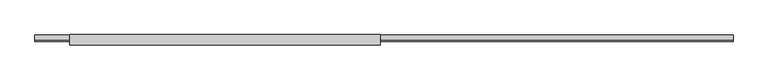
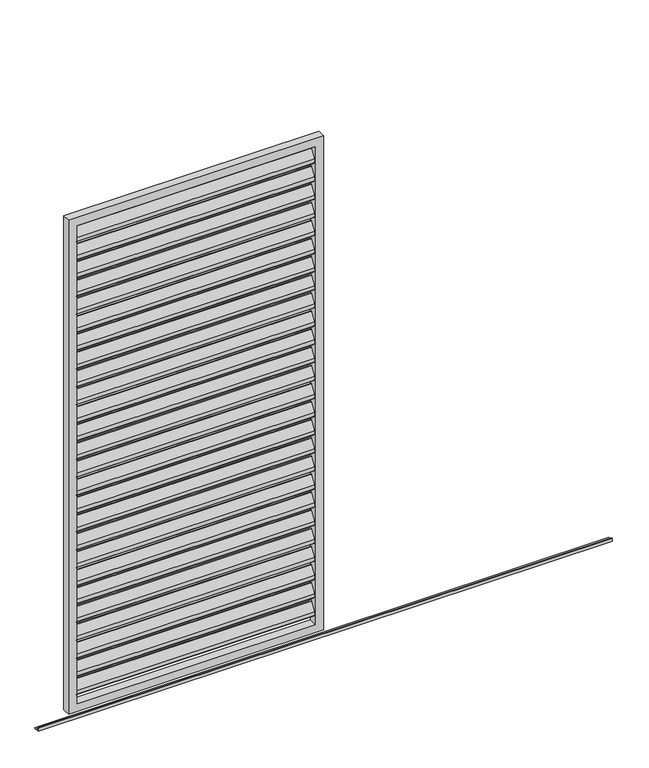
"""IFC4 building model written with IfcOpenShell, lengths in millimetres: proxy geometry, Renson_Amani_Loggia_Paro_Aluminium_Sliding : Renson_Amani_Loggia_Paro_Aluminium_Sliding."""

from ifc_helpers import new_model, si_unit, point, frame, frame_2d, origin, place, context, project, spatial, polyline, circle_curve, trimmed, segment, composite_curve, outline, extrude, source, transform, mapped, element, save


def generic_models_cdf295df(model_context):
    return source(origin(), model_context, "Body", "SweptSolid", [
        extrude(outline(composite_curve([segment(trimmed(circle_curve(frame_2d((12.6675921, 2432.6587719)), 3.0), [point((10.1515804, 2434.292689))], [point((15.6675921, 2432.6587719))], False, "CARTESIAN"), True, "CONTINUOUS"), segment(polyline([(15.6675921, 2432.6587719), (15.6675921, 2414.2979873)]), True, "CONTINUOUS"), segment(trimmed(circle_curve(frame_2d((12.6675921, 2414.2979873)), 3.0), [point((15.6675921, 2414.2979873))], [point((15.1836038, 2412.6640702))], False, "CARTESIAN"), True, "CONTINUOUS"), segment(polyline([(15.1836038, 2412.6640702), (-8.8163962, 2375.707311)]), True, "CONTINUOUS"), segment(trimmed(circle_curve(frame_2d((-11.3324079, 2377.3412281)), 3.0), [point((-8.8163962, 2375.707311))], [point((-14.3324079, 2377.3412281))], False, "CARTESIAN"), True, "CONTINUOUS"), segment(polyline([(-14.3324079, 2377.3412281), (-14.3324079, 2396.5906532), (10.1515804, 2434.292689)]), True, "CONTINUOUS")], self_intersect=False)), frame((-560.0, 0.0, 0.0), z_axis=(1.0, 0.0, 0.0), x_axis=(0.0, 1.0, 0.0)), (0.0, 0.0, 1.0), 1120.0),
        extrude(outline(composite_curve([segment(trimmed(circle_curve(frame_2d((12.6675921, 2342.6587719)), 3.0), [point((10.1515804, 2344.292689))], [point((15.6675921, 2342.6587719))], False, "CARTESIAN"), True, "CONTINUOUS"), segment(polyline([(15.6675921, 2342.6587719), (15.6675921, 2324.2979873)]), True, "CONTINUOUS"), segment(trimmed(circle_curve(frame_2d((12.6675921, 2324.2979873)), 3.0), [point((15.6675921, 2324.2979873))], [point((15.1836038, 2322.6640702))], False, "CARTESIAN"), True, "CONTINUOUS"), segment(polyline([(15.1836038, 2322.6640702), (-8.8163962, 2285.707311)]), True, "CONTINUOUS"), segment(trimmed(circle_curve(frame_2d((-11.3324079, 2287.3412281)), 3.0), [point((-8.8163962, 2285.707311))], [point((-14.3324079, 2287.3412281))], False, "CARTESIAN"), True, "CONTINUOUS"), segment(polyline([(-14.3324079, 2287.3412281), (-14.3324079, 2306.5906532), (10.1515804, 2344.292689)]), True, "CONTINUOUS")], self_intersect=False)), frame((-560.0, 0.0, 0.0), z_axis=(1.0, 0.0, 0.0), x_axis=(0.0, 1.0, 0.0)), (0.0, 0.0, 1.0), 1120.0),
        extrude(outline(composite_curve([segment(trimmed(circle_curve(frame_2d((12.6675921, 2252.6587719)), 3.0), [point((10.1515804, 2254.292689))], [point((15.6675921, 2252.6587719))], False, "CARTESIAN"), True, "CONTINUOUS"), segment(polyline([(15.6675921, 2252.6587719), (15.6675921, 2234.2979873)]), True, "CONTINUOUS"), segment(trimmed(circle_curve(frame_2d((12.6675921, 2234.2979873)), 3.0), [point((15.6675921, 2234.2979873))], [point((15.1836038, 2232.6640702))], False, "CARTESIAN"), True, "CONTINUOUS"), segment(polyline([(15.1836038, 2232.6640702), (-8.8163962, 2195.707311)]), True, "CONTINUOUS"), segment(trimmed(circle_curve(frame_2d((-11.3324079, 2197.3412281)), 3.0), [point((-8.8163962, 2195.707311))], [point((-14.3324079, 2197.3412281))], False, "CARTESIAN"), True, "CONTINUOUS"), segment(polyline([(-14.3324079, 2197.3412281), (-14.3324079, 2216.5906532), (10.1515804, 2254.292689)]), True, "CONTINUOUS")], self_intersect=False)), frame((-560.0, 0.0, 0.0), z_axis=(1.0, 0.0, 0.0), x_axis=(0.0, 1.0, 0.0)), (0.0, 0.0, 1.0), 1120.0),
        extrude(outline(composite_curve([segment(trimmed(circle_curve(frame_2d((12.6675921, 2162.6587719)), 3.0), [point((10.1515804, 2164.292689))], [point((15.6675921, 2162.6587719))], False, "CARTESIAN"), True, "CONTINUOUS"), segment(polyline([(15.6675921, 2162.6587719), (15.6675921, 2144.2979873)]), True, "CONTINUOUS"), segment(trimmed(circle_curve(frame_2d((12.6675921, 2144.2979873)), 3.0), [point((15.6675921, 2144.2979873))], [point((15.1836038, 2142.6640702))], False, "CARTESIAN"), True, "CONTINUOUS"), segment(polyline([(15.1836038, 2142.6640702), (-8.8163962, 2105.707311)]), True, "CONTINUOUS"), segment(trimmed(circle_curve(frame_2d((-11.3324079, 2107.3412281)), 3.0), [point((-8.8163962, 2105.707311))], [point((-14.3324079, 2107.3412281))], False, "CARTESIAN"), True, "CONTINUOUS"), segment(polyline([(-14.3324079, 2107.3412281), (-14.3324079, 2126.5906532), (10.1515804, 2164.292689)]), True, "CONTINUOUS")], self_intersect=False)), frame((-560.0, 0.0, 0.0), z_axis=(1.0, 0.0, 0.0), x_axis=(0.0, 1.0, 0.0)), (0.0, 0.0, 1.0), 1120.0),
        extrude(outline(composite_curve([segment(trimmed(circle_curve(frame_2d((12.6675921, 2072.6587719)), 3.0), [point((10.1515804, 2074.292689))], [point((15.6675921, 2072.6587719))], False, "CARTESIAN"), True, "CONTINUOUS"), segment(polyline([(15.6675921, 2072.6587719), (15.6675921, 2054.2979873)]), True, "CONTINUOUS"), segment(trimmed(circle_curve(frame_2d((12.6675921, 2054.2979873)), 3.0), [point((15.6675921, 2054.2979873))], [point((15.1836038, 2052.6640702))], False, "CARTESIAN"), True, "CONTINUOUS"), segment(polyline([(15.1836038, 2052.6640702), (-8.8163962, 2015.707311)]), True, "CONTINUOUS"), segment(trimmed(circle_curve(frame_2d((-11.3324079, 2017.3412281)), 3.0), [point((-8.8163962, 2015.707311))], [point((-14.3324079, 2017.3412281))], False, "CARTESIAN"), True, "CONTINUOUS"), segment(polyline([(-14.3324079, 2017.3412281), (-14.3324079, 2036.5906532), (10.1515804, 2074.292689)]), True, "CONTINUOUS")], self_intersect=False)), frame((-560.0, 0.0, 0.0), z_axis=(1.0, 0.0, 0.0), x_axis=(0.0, 1.0, 0.0)), (0.0, 0.0, 1.0), 1120.0),
        extrude(outline(composite_curve([segment(trimmed(circle_curve(frame_2d((12.6675921, 1982.6587719)), 3.0), [point((10.1515804, 1984.292689))], [point((15.6675921, 1982.6587719))], False, "CARTESIAN"), True, "CONTINUOUS"), segment(polyline([(15.6675921, 1982.6587719), (15.6675921, 1964.2979873)]), True, "CONTINUOUS"), segment(trimmed(circle_curve(frame_2d((12.6675921, 1964.2979873)), 3.0), [point((15.6675921, 1964.2979873))], [point((15.1836038, 1962.6640702))], False, "CARTESIAN"), True, "CONTINUOUS"), segment(polyline([(15.1836038, 1962.6640702), (-8.8163962, 1925.707311)]), True, "CONTINUOUS"), segment(trimmed(circle_curve(frame_2d((-11.3324079, 1927.3412281)), 3.0), [point((-8.8163962, 1925.707311))], [point((-14.3324079, 1927.3412281))], False, "CARTESIAN"), True, "CONTINUOUS"), segment(polyline([(-14.3324079, 1927.3412281), (-14.3324079, 1946.5906532), (10.1515804, 1984.292689)]), True, "CONTINUOUS")], self_intersect=False)), frame((-560.0, 0.0, 0.0), z_axis=(1.0, 0.0, 0.0), x_axis=(0.0, 1.0, 0.0)), (0.0, 0.0, 1.0), 1120.0),
        extrude(outline(composite_curve([segment(trimmed(circle_curve(frame_2d((12.6675921, 1892.6587719)), 3.0), [point((10.1515804, 1894.292689))], [point((15.6675921, 1892.6587719))], False, "CARTESIAN"), True, "CONTINUOUS"), segment(polyline([(15.6675921, 1892.6587719), (15.6675921, 1874.2979873)]), True, "CONTINUOUS"), segment(trimmed(circle_curve(frame_2d((12.6675921, 1874.2979873)), 3.0), [point((15.6675921, 1874.2979873))], [point((15.1836038, 1872.6640702))], False, "CARTESIAN"), True, "CONTINUOUS"), segment(polyline([(15.1836038, 1872.6640702), (-8.8163962, 1835.707311)]), True, "CONTINUOUS"), segment(trimmed(circle_curve(frame_2d((-11.3324079, 1837.3412281)), 3.0), [point((-8.8163962, 1835.707311))], [point((-14.3324079, 1837.3412281))], False, "CARTESIAN"), True, "CONTINUOUS"), segment(polyline([(-14.3324079, 1837.3412281), (-14.3324079, 1856.5906532), (10.1515804, 1894.292689)]), True, "CONTINUOUS")], self_intersect=False)), frame((-560.0, 0.0, 0.0), z_axis=(1.0, 0.0, 0.0), x_axis=(0.0, 1.0, 0.0)), (0.0, 0.0, 1.0), 1120.0),
        extrude(outline(composite_curve([segment(trimmed(circle_curve(frame_2d((12.6675921, 1802.6587719)), 3.0), [point((10.1515804, 1804.292689))], [point((15.6675921, 1802.6587719))], False, "CARTESIAN"), True, "CONTINUOUS"), segment(polyline([(15.6675921, 1802.6587719), (15.6675921, 1784.2979873)]), True, "CONTINUOUS"), segment(trimmed(circle_curve(frame_2d((12.6675921, 1784.2979873)), 3.0), [point((15.6675921, 1784.2979873))], [point((15.1836038, 1782.6640702))], False, "CARTESIAN"), True, "CONTINUOUS"), segment(polyline([(15.1836038, 1782.6640702), (-8.8163962, 1745.707311)]), True, "CONTINUOUS"), segment(trimmed(circle_curve(frame_2d((-11.3324079, 1747.3412281)), 3.0), [point((-8.8163962, 1745.707311))], [point((-14.3324079, 1747.3412281))], False, "CARTESIAN"), True, "CONTINUOUS"), segment(polyline([(-14.3324079, 1747.3412281), (-14.3324079, 1766.5906532), (10.1515804, 1804.292689)]), True, "CONTINUOUS")], self_intersect=False)), frame((-560.0, 0.0, 0.0), z_axis=(1.0, 0.0, 0.0), x_axis=(0.0, 1.0, 0.0)), (0.0, 0.0, 1.0), 1120.0),
        extrude(outline(composite_curve([segment(trimmed(circle_curve(frame_2d((12.6675921, 1712.6587719)), 3.0), [point((10.1515804, 1714.292689))], [point((15.6675921, 1712.6587719))], False, "CARTESIAN"), True, "CONTINUOUS"), segment(polyline([(15.6675921, 1712.6587719), (15.6675921, 1694.2979873)]), True, "CONTINUOUS"), segment(trimmed(circle_curve(frame_2d((12.6675921, 1694.2979873)), 3.0), [point((15.6675921, 1694.2979873))], [point((15.1836038, 1692.6640702))], False, "CARTESIAN"), True, "CONTINUOUS"), segment(polyline([(15.1836038, 1692.6640702), (-8.8163962, 1655.707311)]), True, "CONTINUOUS"), segment(trimmed(circle_curve(frame_2d((-11.3324079, 1657.3412281)), 3.0), [point((-8.8163962, 1655.707311))], [point((-14.3324079, 1657.3412281))], False, "CARTESIAN"), True, "CONTINUOUS"), segment(polyline([(-14.3324079, 1657.3412281), (-14.3324079, 1676.5906532), (10.1515804, 1714.292689)]), True, "CONTINUOUS")], self_intersect=False)), frame((-560.0, 0.0, 0.0), z_axis=(1.0, 0.0, 0.0), x_axis=(0.0, 1.0, 0.0)), (0.0, 0.0, 1.0), 1120.0),
        extrude(outline(composite_curve([segment(trimmed(circle_curve(frame_2d((12.6675921, 1622.6587719)), 3.0), [point((10.1515804, 1624.292689))], [point((15.6675921, 1622.6587719))], False, "CARTESIAN"), True, "CONTINUOUS"), segment(polyline([(15.6675921, 1622.6587719), (15.6675921, 1604.2979873)]), True, "CONTINUOUS"), segment(trimmed(circle_curve(frame_2d((12.6675921, 1604.2979873)), 3.0), [point((15.6675921, 1604.2979873))], [point((15.1836038, 1602.6640702))], False, "CARTESIAN"), True, "CONTINUOUS"), segment(polyline([(15.1836038, 1602.6640702), (-8.8163962, 1565.707311)]), True, "CONTINUOUS"), segment(trimmed(circle_curve(frame_2d((-11.3324079, 1567.3412281)), 3.0), [point((-8.8163962, 1565.707311))], [point((-14.3324079, 1567.3412281))], False, "CARTESIAN"), True, "CONTINUOUS"), segment(polyline([(-14.3324079, 1567.3412281), (-14.3324079, 1586.5906532), (10.1515804, 1624.292689)]), True, "CONTINUOUS")], self_intersect=False)), frame((-560.0, 0.0, 0.0), z_axis=(1.0, 0.0, 0.0), x_axis=(0.0, 1.0, 0.0)), (0.0, 0.0, 1.0), 1120.0),
        extrude(outline(composite_curve([segment(trimmed(circle_curve(frame_2d((12.6675921, 1532.6587719)), 3.0), [point((10.1515804, 1534.292689))], [point((15.6675921, 1532.6587719))], False, "CARTESIAN"), True, "CONTINUOUS"), segment(polyline([(15.6675921, 1532.6587719), (15.6675921, 1514.2979873)]), True, "CONTINUOUS"), segment(trimmed(circle_curve(frame_2d((12.6675921, 1514.2979873)), 3.0), [point((15.6675921, 1514.2979873))], [point((15.1836038, 1512.6640702))], False, "CARTESIAN"), True, "CONTINUOUS"), segment(polyline([(15.1836038, 1512.6640702), (-8.8163962, 1475.707311)]), True, "CONTINUOUS"), segment(trimmed(circle_curve(frame_2d((-11.3324079, 1477.3412281)), 3.0), [point((-8.8163962, 1475.707311))], [point((-14.3324079, 1477.3412281))], False, "CARTESIAN"), True, "CONTINUOUS"), segment(polyline([(-14.3324079, 1477.3412281), (-14.3324079, 1496.5906532), (10.1515804, 1534.292689)]), True, "CONTINUOUS")], self_intersect=False)), frame((-560.0, 0.0, 0.0), z_axis=(1.0, 0.0, 0.0), x_axis=(0.0, 1.0, 0.0)), (0.0, 0.0, 1.0), 1120.0),
        extrude(outline(composite_curve([segment(trimmed(circle_curve(frame_2d((12.6675921, 1442.6587719)), 3.0), [point((10.1515804, 1444.292689))], [point((15.6675921, 1442.6587719))], False, "CARTESIAN"), True, "CONTINUOUS"), segment(polyline([(15.6675921, 1442.6587719), (15.6675921, 1424.2979873)]), True, "CONTINUOUS"), segment(trimmed(circle_curve(frame_2d((12.6675921, 1424.2979873)), 3.0), [point((15.6675921, 1424.2979873))], [point((15.1836038, 1422.6640702))], False, "CARTESIAN"), True, "CONTINUOUS"), segment(polyline([(15.1836038, 1422.6640702), (-8.8163962, 1385.707311)]), True, "CONTINUOUS"), segment(trimmed(circle_curve(frame_2d((-11.3324079, 1387.3412281)), 3.0), [point((-8.8163962, 1385.707311))], [point((-14.3324079, 1387.3412281))], False, "CARTESIAN"), True, "CONTINUOUS"), segment(polyline([(-14.3324079, 1387.3412281), (-14.3324079, 1406.5906532), (10.1515804, 1444.292689)]), True, "CONTINUOUS")], self_intersect=False)), frame((-560.0, 0.0, 0.0), z_axis=(1.0, 0.0, 0.0), x_axis=(0.0, 1.0, 0.0)), (0.0, 0.0, 1.0), 1120.0),
        extrude(outline(composite_curve([segment(trimmed(circle_curve(frame_2d((12.6675921, 1352.6587719)), 3.0), [point((10.1515804, 1354.292689))], [point((15.6675921, 1352.6587719))], False, "CARTESIAN"), True, "CONTINUOUS"), segment(polyline([(15.6675921, 1352.6587719), (15.6675921, 1334.2979873)]), True, "CONTINUOUS"), segment(trimmed(circle_curve(frame_2d((12.6675921, 1334.2979873)), 3.0), [point((15.6675921, 1334.2979873))], [point((15.1836038, 1332.6640702))], False, "CARTESIAN"), True, "CONTINUOUS"), segment(polyline([(15.1836038, 1332.6640702), (-8.8163962, 1295.707311)]), True, "CONTINUOUS"), segment(trimmed(circle_curve(frame_2d((-11.3324079, 1297.3412281)), 3.0), [point((-8.8163962, 1295.707311))], [point((-14.3324079, 1297.3412281))], False, "CARTESIAN"), True, "CONTINUOUS"), segment(polyline([(-14.3324079, 1297.3412281), (-14.3324079, 1316.5906532), (10.1515804, 1354.292689)]), True, "CONTINUOUS")], self_intersect=False)), frame((-560.0, 0.0, 0.0), z_axis=(1.0, 0.0, 0.0), x_axis=(0.0, 1.0, 0.0)), (0.0, 0.0, 1.0), 1120.0),
        extrude(outline(composite_curve([segment(trimmed(circle_curve(frame_2d((12.6675921, 1262.6587719)), 3.0), [point((10.1515804, 1264.292689))], [point((15.6675921, 1262.6587719))], False, "CARTESIAN"), True, "CONTINUOUS"), segment(polyline([(15.6675921, 1262.6587719), (15.6675921, 1244.2979873)]), True, "CONTINUOUS"), segment(trimmed(circle_curve(frame_2d((12.6675921, 1244.2979873)), 3.0), [point((15.6675921, 1244.2979873))], [point((15.1836038, 1242.6640702))], False, "CARTESIAN"), True, "CONTINUOUS"), segment(polyline([(15.1836038, 1242.6640702), (-8.8163962, 1205.707311)]), True, "CONTINUOUS"), segment(trimmed(circle_curve(frame_2d((-11.3324079, 1207.3412281)), 3.0), [point((-8.8163962, 1205.707311))], [point((-14.3324079, 1207.3412281))], False, "CARTESIAN"), True, "CONTINUOUS"), segment(polyline([(-14.3324079, 1207.3412281), (-14.3324079, 1226.5906532), (10.1515804, 1264.292689)]), True, "CONTINUOUS")], self_intersect=False)), frame((-560.0, 0.0, 0.0), z_axis=(1.0, 0.0, 0.0), x_axis=(0.0, 1.0, 0.0)), (0.0, 0.0, 1.0), 1120.0),
        extrude(outline(composite_curve([segment(trimmed(circle_curve(frame_2d((12.6675921, 1172.6587719)), 3.0), [point((10.1515804, 1174.292689))], [point((15.6675921, 1172.6587719))], False, "CARTESIAN"), True, "CONTINUOUS"), segment(polyline([(15.6675921, 1172.6587719), (15.6675921, 1154.2979873)]), True, "CONTINUOUS"), segment(trimmed(circle_curve(frame_2d((12.6675921, 1154.2979873)), 3.0), [point((15.6675921, 1154.2979873))], [point((15.1836038, 1152.6640702))], False, "CARTESIAN"), True, "CONTINUOUS"), segment(polyline([(15.1836038, 1152.6640702), (-8.8163962, 1115.707311)]), True, "CONTINUOUS"), segment(trimmed(circle_curve(frame_2d((-11.3324079, 1117.3412281)), 3.0), [point((-8.8163962, 1115.707311))], [point((-14.3324079, 1117.3412281))], False, "CARTESIAN"), True, "CONTINUOUS"), segment(polyline([(-14.3324079, 1117.3412281), (-14.3324079, 1136.5906532), (10.1515804, 1174.292689)]), True, "CONTINUOUS")], self_intersect=False)), frame((-560.0, 0.0, 0.0), z_axis=(1.0, 0.0, 0.0), x_axis=(0.0, 1.0, 0.0)), (0.0, 0.0, 1.0), 1120.0),
        extrude(outline(composite_curve([segment(trimmed(circle_curve(frame_2d((12.6675921, 1082.6587719)), 3.0), [point((10.1515804, 1084.292689))], [point((15.6675921, 1082.6587719))], False, "CARTESIAN"), True, "CONTINUOUS"), segment(polyline([(15.6675921, 1082.6587719), (15.6675921, 1064.2979873)]), True, "CONTINUOUS"), segment(trimmed(circle_curve(frame_2d((12.6675921, 1064.2979873)), 3.0), [point((15.6675921, 1064.2979873))], [point((15.1836038, 1062.6640702))], False, "CARTESIAN"), True, "CONTINUOUS"), segment(polyline([(15.1836038, 1062.6640702), (-8.8163962, 1025.707311)]), True, "CONTINUOUS"), segment(trimmed(circle_curve(frame_2d((-11.3324079, 1027.3412281)), 3.0), [point((-8.8163962, 1025.707311))], [point((-14.3324079, 1027.3412281))], False, "CARTESIAN"), True, "CONTINUOUS"), segment(polyline([(-14.3324079, 1027.3412281), (-14.3324079, 1046.5906532), (10.1515804, 1084.292689)]), True, "CONTINUOUS")], self_intersect=False)), frame((-560.0, 0.0, 0.0), z_axis=(1.0, 0.0, 0.0), x_axis=(0.0, 1.0, 0.0)), (0.0, 0.0, 1.0), 1120.0),
        extrude(outline(composite_curve([segment(trimmed(circle_curve(frame_2d((12.6675921, 992.6587719)), 3.0), [point((10.1515804, 994.292689))], [point((15.6675921, 992.6587719))], False, "CARTESIAN"), True, "CONTINUOUS"), segment(polyline([(15.6675921, 992.6587719), (15.6675921, 974.2979873)]), True, "CONTINUOUS"), segment(trimmed(circle_curve(frame_2d((12.6675921, 974.2979873)), 3.0), [point((15.6675921, 974.2979873))], [point((15.1836038, 972.6640702))], False, "CARTESIAN"), True, "CONTINUOUS"), segment(polyline([(15.1836038, 972.6640702), (-8.8163962, 935.707311)]), True, "CONTINUOUS"), segment(trimmed(circle_curve(frame_2d((-11.3324079, 937.3412281)), 3.0), [point((-8.8163962, 935.707311))], [point((-14.3324079, 937.3412281))], False, "CARTESIAN"), True, "CONTINUOUS"), segment(polyline([(-14.3324079, 937.3412281), (-14.3324079, 956.5906532), (10.1515804, 994.292689)]), True, "CONTINUOUS")], self_intersect=False)), frame((-560.0, 0.0, 0.0), z_axis=(1.0, 0.0, 0.0), x_axis=(0.0, 1.0, 0.0)), (0.0, 0.0, 1.0), 1120.0),
        extrude(outline(composite_curve([segment(trimmed(circle_curve(frame_2d((12.6675921, 902.6587719)), 3.0), [point((10.1515804, 904.292689))], [point((15.6675921, 902.6587719))], False, "CARTESIAN"), True, "CONTINUOUS"), segment(polyline([(15.6675921, 902.6587719), (15.6675921, 884.2979873)]), True, "CONTINUOUS"), segment(trimmed(circle_curve(frame_2d((12.6675921, 884.2979873)), 3.0), [point((15.6675921, 884.2979873))], [point((15.1836038, 882.6640702))], False, "CARTESIAN"), True, "CONTINUOUS"), segment(polyline([(15.1836038, 882.6640702), (-8.8163962, 845.707311)]), True, "CONTINUOUS"), segment(trimmed(circle_curve(frame_2d((-11.3324079, 847.3412281)), 3.0), [point((-8.8163962, 845.707311))], [point((-14.3324079, 847.3412281))], False, "CARTESIAN"), True, "CONTINUOUS"), segment(polyline([(-14.3324079, 847.3412281), (-14.3324079, 866.5906532), (10.1515804, 904.292689)]), True, "CONTINUOUS")], self_intersect=False)), frame((-560.0, 0.0, 0.0), z_axis=(1.0, 0.0, 0.0), x_axis=(0.0, 1.0, 0.0)), (0.0, 0.0, 1.0), 1120.0),
        extrude(outline(composite_curve([segment(trimmed(circle_curve(frame_2d((12.6675921, 812.6587719)), 3.0), [point((10.1515804, 814.292689))], [point((15.6675921, 812.6587719))], False, "CARTESIAN"), True, "CONTINUOUS"), segment(polyline([(15.6675921, 812.6587719), (15.6675921, 794.2979873)]), True, "CONTINUOUS"), segment(trimmed(circle_curve(frame_2d((12.6675921, 794.2979873)), 3.0), [point((15.6675921, 794.2979873))], [point((15.1836038, 792.6640702))], False, "CARTESIAN"), True, "CONTINUOUS"), segment(polyline([(15.1836038, 792.6640702), (-8.8163962, 755.707311)]), True, "CONTINUOUS"), segment(trimmed(circle_curve(frame_2d((-11.3324079, 757.3412281)), 3.0), [point((-8.8163962, 755.707311))], [point((-14.3324079, 757.3412281))], False, "CARTESIAN"), True, "CONTINUOUS"), segment(polyline([(-14.3324079, 757.3412281), (-14.3324079, 776.5906532), (10.1515804, 814.292689)]), True, "CONTINUOUS")], self_intersect=False)), frame((-560.0, 0.0, 0.0), z_axis=(1.0, 0.0, 0.0), x_axis=(0.0, 1.0, 0.0)), (0.0, 0.0, 1.0), 1120.0),
        extrude(outline(composite_curve([segment(trimmed(circle_curve(frame_2d((12.6675921, 722.6587719)), 3.0), [point((10.1515804, 724.292689))], [point((15.6675921, 722.6587719))], False, "CARTESIAN"), True, "CONTINUOUS"), segment(polyline([(15.6675921, 722.6587719), (15.6675921, 704.2979873)]), True, "CONTINUOUS"), segment(trimmed(circle_curve(frame_2d((12.6675921, 704.2979873)), 3.0), [point((15.6675921, 704.2979873))], [point((15.1836038, 702.6640702))], False, "CARTESIAN"), True, "CONTINUOUS"), segment(polyline([(15.1836038, 702.6640702), (-8.8163962, 665.707311)]), True, "CONTINUOUS"), segment(trimmed(circle_curve(frame_2d((-11.3324079, 667.3412281)), 3.0), [point((-8.8163962, 665.707311))], [point((-14.3324079, 667.3412281))], False, "CARTESIAN"), True, "CONTINUOUS"), segment(polyline([(-14.3324079, 667.3412281), (-14.3324079, 686.5906532), (10.1515804, 724.292689)]), True, "CONTINUOUS")], self_intersect=False)), frame((-560.0, 0.0, 0.0), z_axis=(1.0, 0.0, 0.0), x_axis=(0.0, 1.0, 0.0)), (0.0, 0.0, 1.0), 1120.0),
        extrude(outline(composite_curve([segment(trimmed(circle_curve(frame_2d((12.6675921, 632.6587719)), 3.0), [point((10.1515804, 634.292689))], [point((15.6675921, 632.6587719))], False, "CARTESIAN"), True, "CONTINUOUS"), segment(polyline([(15.6675921, 632.6587719), (15.6675921, 614.2979873)]), True, "CONTINUOUS"), segment(trimmed(circle_curve(frame_2d((12.6675921, 614.2979873)), 3.0), [point((15.6675921, 614.2979873))], [point((15.1836038, 612.6640702))], False, "CARTESIAN"), True, "CONTINUOUS"), segment(polyline([(15.1836038, 612.6640702), (-8.8163962, 575.707311)]), True, "CONTINUOUS"), segment(trimmed(circle_curve(frame_2d((-11.3324079, 577.3412281)), 3.0), [point((-8.8163962, 575.707311))], [point((-14.3324079, 577.3412281))], False, "CARTESIAN"), True, "CONTINUOUS"), segment(polyline([(-14.3324079, 577.3412281), (-14.3324079, 596.5906532), (10.1515804, 634.292689)]), True, "CONTINUOUS")], self_intersect=False)), frame((-560.0, 0.0, 0.0), z_axis=(1.0, 0.0, 0.0), x_axis=(0.0, 1.0, 0.0)), (0.0, 0.0, 1.0), 1120.0),
        extrude(outline(composite_curve([segment(trimmed(circle_curve(frame_2d((12.6675921, 542.6587719)), 3.0), [point((10.1515804, 544.292689))], [point((15.6675921, 542.6587719))], False, "CARTESIAN"), True, "CONTINUOUS"), segment(polyline([(15.6675921, 542.6587719), (15.6675921, 524.2979873)]), True, "CONTINUOUS"), segment(trimmed(circle_curve(frame_2d((12.6675921, 524.2979873)), 3.0), [point((15.6675921, 524.2979873))], [point((15.1836038, 522.6640702))], False, "CARTESIAN"), True, "CONTINUOUS"), segment(polyline([(15.1836038, 522.6640702), (-8.8163962, 485.707311)]), True, "CONTINUOUS"), segment(trimmed(circle_curve(frame_2d((-11.3324079, 487.3412281)), 3.0), [point((-8.8163962, 485.707311))], [point((-14.3324079, 487.3412281))], False, "CARTESIAN"), True, "CONTINUOUS"), segment(polyline([(-14.3324079, 487.3412281), (-14.3324079, 506.5906532), (10.1515804, 544.292689)]), True, "CONTINUOUS")], self_intersect=False)), frame((-560.0, 0.0, 0.0), z_axis=(1.0, 0.0, 0.0), x_axis=(0.0, 1.0, 0.0)), (0.0, 0.0, 1.0), 1120.0),
        extrude(outline(composite_curve([segment(trimmed(circle_curve(frame_2d((12.6675921, 452.6587719)), 3.0), [point((10.1515804, 454.292689))], [point((15.6675921, 452.6587719))], False, "CARTESIAN"), True, "CONTINUOUS"), segment(polyline([(15.6675921, 452.6587719), (15.6675921, 434.2979873)]), True, "CONTINUOUS"), segment(trimmed(circle_curve(frame_2d((12.6675921, 434.2979873)), 3.0), [point((15.6675921, 434.2979873))], [point((15.1836038, 432.6640702))], False, "CARTESIAN"), True, "CONTINUOUS"), segment(polyline([(15.1836038, 432.6640702), (-8.8163962, 395.707311)]), True, "CONTINUOUS"), segment(trimmed(circle_curve(frame_2d((-11.3324079, 397.3412281)), 3.0), [point((-8.8163962, 395.707311))], [point((-14.3324079, 397.3412281))], False, "CARTESIAN"), True, "CONTINUOUS"), segment(polyline([(-14.3324079, 397.3412281), (-14.3324079, 416.5906532), (10.1515804, 454.292689)]), True, "CONTINUOUS")], self_intersect=False)), frame((-560.0, 0.0, 0.0), z_axis=(1.0, 0.0, 0.0), x_axis=(0.0, 1.0, 0.0)), (0.0, 0.0, 1.0), 1120.0),
        extrude(outline(composite_curve([segment(trimmed(circle_curve(frame_2d((12.6675921, 362.6587719)), 3.0), [point((10.1515804, 364.292689))], [point((15.6675921, 362.6587719))], False, "CARTESIAN"), True, "CONTINUOUS"), segment(polyline([(15.6675921, 362.6587719), (15.6675921, 344.2979873)]), True, "CONTINUOUS"), segment(trimmed(circle_curve(frame_2d((12.6675921, 344.2979873)), 3.0), [point((15.6675921, 344.2979873))], [point((15.1836038, 342.6640702))], False, "CARTESIAN"), True, "CONTINUOUS"), segment(polyline([(15.1836038, 342.6640702), (-8.8163962, 305.707311)]), True, "CONTINUOUS"), segment(trimmed(circle_curve(frame_2d((-11.3324079, 307.3412281)), 3.0), [point((-8.8163962, 305.707311))], [point((-14.3324079, 307.3412281))], False, "CARTESIAN"), True, "CONTINUOUS"), segment(polyline([(-14.3324079, 307.3412281), (-14.3324079, 326.5906532), (10.1515804, 364.292689)]), True, "CONTINUOUS")], self_intersect=False)), frame((-560.0, 0.0, 0.0), z_axis=(1.0, 0.0, 0.0), x_axis=(0.0, 1.0, 0.0)), (0.0, 0.0, 1.0), 1120.0),
        extrude(outline(composite_curve([segment(trimmed(circle_curve(frame_2d((12.6675921, 272.6587719)), 3.0), [point((10.1515804, 274.292689))], [point((15.6675921, 272.6587719))], False, "CARTESIAN"), True, "CONTINUOUS"), segment(polyline([(15.6675921, 272.6587719), (15.6675921, 254.2979873)]), True, "CONTINUOUS"), segment(trimmed(circle_curve(frame_2d((12.6675921, 254.2979873)), 3.0), [point((15.6675921, 254.2979873))], [point((15.1836038, 252.6640702))], False, "CARTESIAN"), True, "CONTINUOUS"), segment(polyline([(15.1836038, 252.6640702), (-8.8163962, 215.707311)]), True, "CONTINUOUS"), segment(trimmed(circle_curve(frame_2d((-11.3324079, 217.3412281)), 3.0), [point((-8.8163962, 215.707311))], [point((-14.3324079, 217.3412281))], False, "CARTESIAN"), True, "CONTINUOUS"), segment(polyline([(-14.3324079, 217.3412281), (-14.3324079, 236.5906532), (10.1515804, 274.292689)]), True, "CONTINUOUS")], self_intersect=False)), frame((-560.0, 0.0, 0.0), z_axis=(1.0, 0.0, 0.0), x_axis=(0.0, 1.0, 0.0)), (0.0, 0.0, 1.0), 1120.0),
        extrude(outline(composite_curve([segment(trimmed(circle_curve(frame_2d((12.6675921, 182.6587719)), 3.0), [point((10.1515804, 184.292689))], [point((15.6675921, 182.6587719))], False, "CARTESIAN"), True, "CONTINUOUS"), segment(polyline([(15.6675921, 182.6587719), (15.6675921, 164.2979873)]), True, "CONTINUOUS"), segment(trimmed(circle_curve(frame_2d((12.6675921, 164.2979873)), 3.0), [point((15.6675921, 164.2979873))], [point((15.1836038, 162.6640702))], False, "CARTESIAN"), True, "CONTINUOUS"), segment(polyline([(15.1836038, 162.6640702), (-8.8163962, 125.707311)]), True, "CONTINUOUS"), segment(trimmed(circle_curve(frame_2d((-11.3324079, 127.3412281)), 3.0), [point((-8.8163962, 125.707311))], [point((-14.3324079, 127.3412281))], False, "CARTESIAN"), True, "CONTINUOUS"), segment(polyline([(-14.3324079, 127.3412281), (-14.3324079, 146.5906532), (10.1515804, 184.292689)]), True, "CONTINUOUS")], self_intersect=False)), frame((-560.0, 0.0, 0.0), z_axis=(1.0, 0.0, 0.0), x_axis=(0.0, 1.0, 0.0)), (0.0, 0.0, 1.0), 1120.0),
        extrude(outline(polyline([(-6.0, 15.0), (-3.0, 15.0), (-3.0, 3.0), (20.0, 3.0), (20.0, 0.0), (-6.0, 0.0), (-6.0, 15.0)])), frame((-735.6514761, 0.0, 0.0), z_axis=(1.0, 0.0, 0.0), x_axis=(0.0, 1.0, 0.0)), (0.0, 0.0, 1.0), 2700.0),
        extrude(outline(polyline([(2500.0, -600.0), (45.0, -600.0), (45.0, 600.0), (2500.0, 600.0), (2500.0, -600.0)]), holes=[polyline([(2460.0, 560.0), (85.0, 560.0), (85.0, -560.0), (2460.0, -560.0), (2460.0, 560.0)])]), frame((0.0, -20.0, 0.0), z_axis=(0.0, 1.0, 0.0), x_axis=(0.0, 0.0, 1.0)), (0.0, 0.0, 1.0), 40.0),
    ])


if __name__ == "__main__":
    model = new_model("IFC4")
    model_context = context("Model", 3, world=origin())
    ifc_project = project(units=[si_unit("LENGTHUNIT", "METRE", prefix="MILLI")], contexts=[model_context])
    site = spatial("IfcSite", under=ifc_project)
    building = spatial("IfcBuilding", under=site)
    placement = place(None, origin())
    generic_models_shape = generic_models_cdf295df(model_context)
    element("IfcBuildingElementProxy", 1, Name="Renson_Amani_Loggia_Paro_Aluminium_Sliding : Renson_Amani_Loggia_Paro_Aluminium_Sliding", ObjectType="Renson_Amani_Loggia_Paro_Aluminium_Sliding : Renson_Amani_Loggia_Paro_Aluminium_Sliding", at=placement, inside=building, context=model_context, shape_type="MappedRepresentation", body=[
        mapped(generic_models_shape, transform((0.0, 0.0, 0.0), x_axis=(1.0, 0.0, 0.0), y_axis=(0.0, 1.0, 0.0), z_axis=(0.0, 0.0, 1.0))),
    ])
    save(model, "model.ifc")
